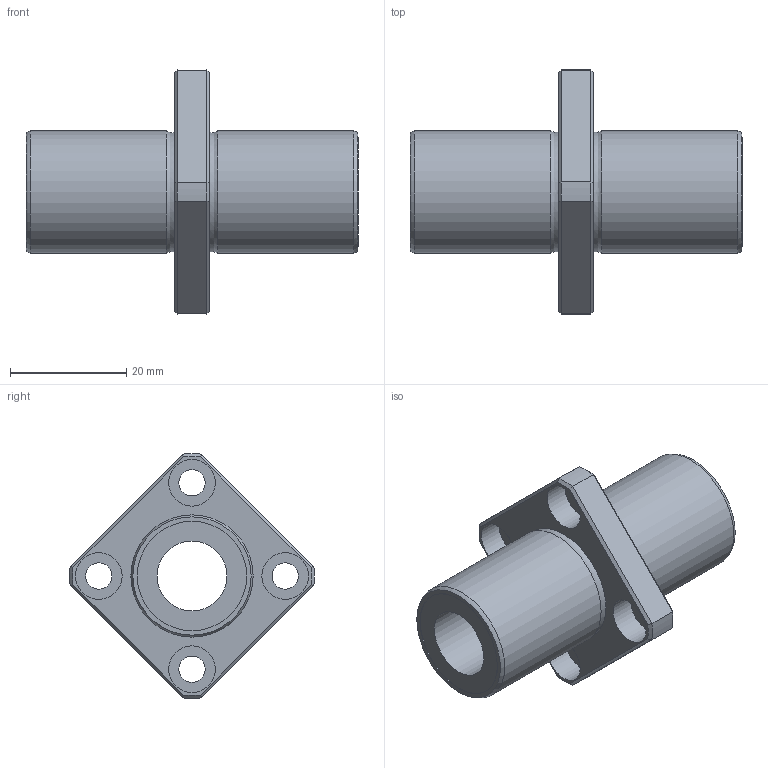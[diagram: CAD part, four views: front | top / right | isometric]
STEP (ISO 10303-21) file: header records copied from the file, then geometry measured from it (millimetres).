
FILE_DESCRIPTION((''),'2;1');
FILE_NAME('D:\製品 (図面)\カタログ用3D\リニアベアリング関連\STEP形式\LFDKC\LFDKC12.stp','2010-06-03T09:37:18',('Tsuchiya'),(''),'Autodesk Inventor 10','Autodesk Inventor 10','');
FILE_SCHEMA(('AUTOMOTIVE_DESIGN { 1 0 10303 214 1 1 1 1 }'));
Length unit declared in the file: millimetre
Products named in the file (1): LFDKC12
Bounding box: 57 x 41.98 x 41.98 mm (x, y, z)
Volume: 16204.5 mm3; surface area: 8378.8 mm2
Topology: 1 solids, 1 shells, 51 faces, 103 edges, 62 vertices
Faces by surface type: plane 22, cylinder 17, cone 8, torus 2, bspline 2
Full cylindrical faces by diameter (mm): 4.5 x4, 8 x4, 12 x1, 18.8 x2, 21 x2
Entity records: 1413 total; most frequent: CARTESIAN_POINT 372, DIRECTION 216, ORIENTED_EDGE 172, AXIS2_PLACEMENT_3D 96, EDGE_CURVE 86, EDGE_LOOP 86, VERTEX_POINT 62, FACE_OUTER_BOUND 51
